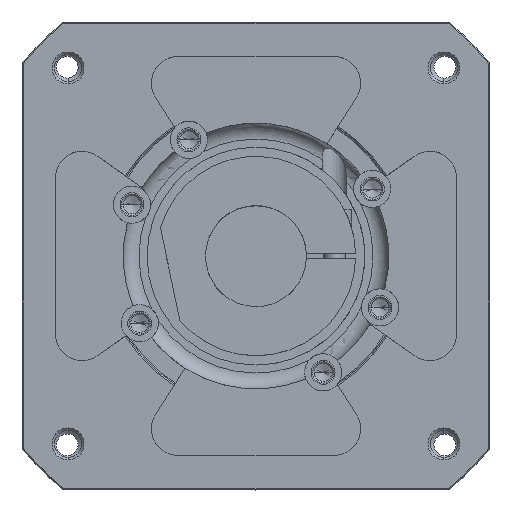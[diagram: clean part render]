
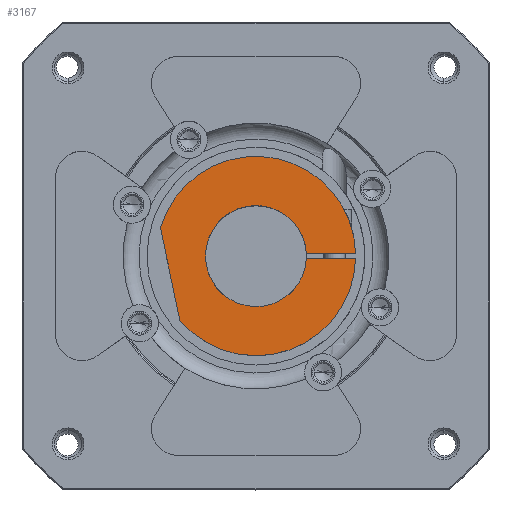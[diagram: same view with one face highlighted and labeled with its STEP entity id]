
A CAD part, top view. The second image highlights one B-rep face of the part: STEP entity #3167.
In plain terms, the highlighted planar face has unit normal (0, 0, 1) as drawn and (0, 1, 0) by its records, which use the part's own axes.
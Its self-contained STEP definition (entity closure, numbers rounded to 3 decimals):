
#2496=DIRECTION('',(0.979,0.,-0.205));
#2497=VECTOR('',#2496,35.623);
#2498=CARTESIAN_POINT('',(-24.203,135.,-28.643));
#2499=LINE('',#2498,#2497);
#2500=DIRECTION('',(0.,0.,-1.));
#2501=VECTOR('',#2500,18.513);
#2502=CARTESIAN_POINT('',(1.,135.,37.487));
#2503=LINE('',#2502,#2501);
#2504=CARTESIAN_POINT('',(0.,135.,0.));
#2505=DIRECTION('',(0.,1.,0.));
#2506=DIRECTION('',(0.053,0.,0.999));
#2507=AXIS2_PLACEMENT_3D('',#2504,#2505,#2506);
#2509=CARTESIAN_POINT('',(0.,135.,0.));
#2510=DIRECTION('',(0.,-1.,0.));
#2511=DIRECTION('',(-0.053,0.,0.999));
#2512=AXIS2_PLACEMENT_3D('',#2509,#2510,#2511);
#2514=DIRECTION('',(0.,0.,-1.));
#2515=VECTOR('',#2514,18.513);
#2516=CARTESIAN_POINT('',(-1.,135.,37.487));
#2517=LINE('',#2516,#2515);
#2543=CARTESIAN_POINT('',(0.,135.,0.));
#2544=DIRECTION('',(0.,1.,0.));
#2545=DIRECTION('',(0.027,0.,1.));
#2546=AXIS2_PLACEMENT_3D('',#2543,#2544,#2545);
#2548=CARTESIAN_POINT('',(0.,135.,0.));
#2549=DIRECTION('',(0.,1.,0.));
#2550=DIRECTION('',(-0.645,0.,-0.764));
#2551=AXIS2_PLACEMENT_3D('',#2548,#2549,#2550);
#2729=CARTESIAN_POINT('',(0.,135.,-19.));
#2731=VERTEX_POINT('',#2729);
#2744=CARTESIAN_POINT('',(1.,135.,18.974));
#2745=VERTEX_POINT('',#2744);
#2746=CARTESIAN_POINT('',(1.,135.,37.487));
#2747=VERTEX_POINT('',#2746);
#2748=CARTESIAN_POINT('',(-1.,135.,37.487));
#2749=CARTESIAN_POINT('',(-1.,135.,18.974));
#2750=VERTEX_POINT('',#2748);
#2751=VERTEX_POINT('',#2749);
#2780=CARTESIAN_POINT('',(-24.203,135.,-28.643));
#2781=CARTESIAN_POINT('',(10.662,135.,-35.952));
#2782=VERTEX_POINT('',#2780);
#2783=VERTEX_POINT('',#2781);
#3149=CARTESIAN_POINT('',(0.,135.,0.));
#3150=DIRECTION('',(0.,1.,0.));
#3151=DIRECTION('',(0.,0.,-1.));
#3152=AXIS2_PLACEMENT_3D('',#3149,#3150,#3151);
#3153=PLANE('',#3152);
#3155=ORIENTED_EDGE('',*,*,#3154,.T.);
#3157=ORIENTED_EDGE('',*,*,#3156,.F.);
#3159=ORIENTED_EDGE('',*,*,#3158,.T.);
#3160=ORIENTED_EDGE('',*,*,#3101,.T.);
#3161=ORIENTED_EDGE('',*,*,#3116,.F.);
#3162=ORIENTED_EDGE('',*,*,#3130,.F.);
#3164=ORIENTED_EDGE('',*,*,#3163,.F.);
#3165=EDGE_LOOP('',(#3155,#3157,#3159,#3160,#3161,#3162,#3164));
#3166=FACE_OUTER_BOUND('',#3165,.F.);
#3167=ADVANCED_FACE('',(#3166),#3153,.T.);
#2508=CIRCLE('',#2507,19.);
#2513=CIRCLE('',#2512,19.);
#2547=CIRCLE('',#2546,37.5);
#2552=CIRCLE('',#2551,37.5);
#3101=EDGE_CURVE('',#2745,#2731,#2508,.T.);
#3116=EDGE_CURVE('',#2751,#2731,#2513,.T.);
#3130=EDGE_CURVE('',#2750,#2751,#2517,.T.);
#3154=EDGE_CURVE('',#2782,#2783,#2499,.T.);
#3156=EDGE_CURVE('',#2747,#2783,#2547,.T.);
#3158=EDGE_CURVE('',#2747,#2745,#2503,.T.);
#3163=EDGE_CURVE('',#2782,#2750,#2552,.T.);
